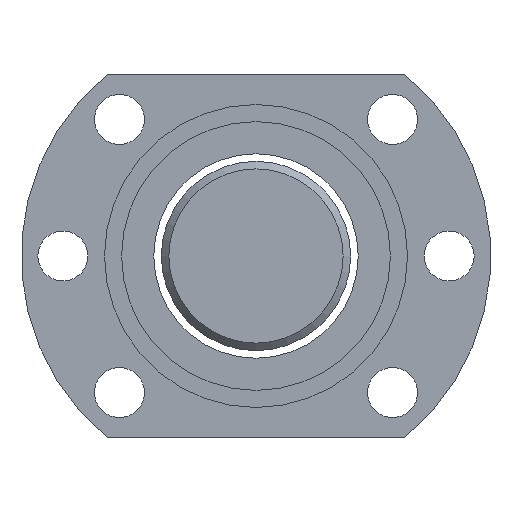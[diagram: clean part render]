
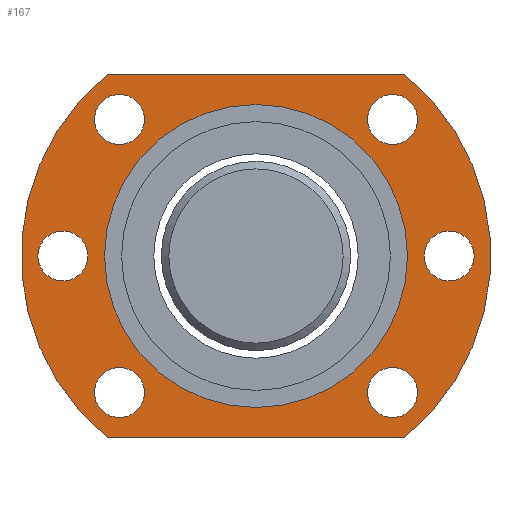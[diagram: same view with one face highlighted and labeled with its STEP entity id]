
A CAD part, left-side view. The second image highlights one B-rep face of the part: STEP entity #167.
In plain terms, the highlighted planar face has unit normal (-1, 0, 0).
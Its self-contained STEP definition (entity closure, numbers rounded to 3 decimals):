
#113=LINE('',#1132,#121);
#114=LINE('',#1136,#122);
#121=VECTOR('',#930,1.);
#122=VECTOR('',#933,1.);
#136=PLANE('',#782);
#167=ADVANCED_FACE('',(#267,#268,#269,#270,#271,#272,#273,#274),#136,.T.);
#267=FACE_BOUND('',#367,.T.);
#268=FACE_BOUND('',#368,.T.);
#269=FACE_BOUND('',#369,.T.);
#270=FACE_BOUND('',#370,.T.);
#271=FACE_BOUND('',#371,.T.);
#272=FACE_BOUND('',#372,.T.);
#273=FACE_BOUND('',#373,.T.);
#274=FACE_BOUND('',#374,.T.);
#367=EDGE_LOOP('',(#476));
#368=EDGE_LOOP('',(#477));
#369=EDGE_LOOP('',(#478,#479,#480,#481));
#370=EDGE_LOOP('',(#482));
#371=EDGE_LOOP('',(#483));
#372=EDGE_LOOP('',(#484));
#373=EDGE_LOOP('',(#485));
#374=EDGE_LOOP('',(#486));
#476=ORIENTED_EDGE('',*,*,#641,.T.);
#477=ORIENTED_EDGE('',*,*,#630,.F.);
#478=ORIENTED_EDGE('',*,*,#642,.T.);
#479=ORIENTED_EDGE('',*,*,#643,.T.);
#480=ORIENTED_EDGE('',*,*,#644,.T.);
#481=ORIENTED_EDGE('',*,*,#645,.T.);
#482=ORIENTED_EDGE('',*,*,#646,.F.);
#483=ORIENTED_EDGE('',*,*,#647,.F.);
#484=ORIENTED_EDGE('',*,*,#648,.F.);
#485=ORIENTED_EDGE('',*,*,#649,.T.);
#486=ORIENTED_EDGE('',*,*,#650,.T.);
#572=VERTEX_POINT('',#1104);
#583=VERTEX_POINT('',#1128);
#584=VERTEX_POINT('',#1130);
#585=VERTEX_POINT('',#1131);
#586=VERTEX_POINT('',#1133);
#587=VERTEX_POINT('',#1135);
#588=VERTEX_POINT('',#1138);
#589=VERTEX_POINT('',#1140);
#590=VERTEX_POINT('',#1142);
#591=VERTEX_POINT('',#1144);
#592=VERTEX_POINT('',#1146);
#630=EDGE_CURVE('',#572,#572,#692,.T.);
#641=EDGE_CURVE('',#583,#583,#701,.T.);
#642=EDGE_CURVE('',#584,#585,#702,.T.);
#643=EDGE_CURVE('',#585,#586,#113,.T.);
#644=EDGE_CURVE('',#586,#587,#703,.T.);
#645=EDGE_CURVE('',#587,#584,#114,.T.);
#646=EDGE_CURVE('',#588,#588,#704,.T.);
#647=EDGE_CURVE('',#589,#589,#705,.T.);
#648=EDGE_CURVE('',#590,#590,#706,.T.);
#649=EDGE_CURVE('',#591,#591,#707,.T.);
#650=EDGE_CURVE('',#592,#592,#708,.T.);
#692=CIRCLE('',#763,20.);
#701=CIRCLE('',#774,3.3);
#702=CIRCLE('',#775,31.);
#703=CIRCLE('',#776,31.);
#704=CIRCLE('',#777,3.3);
#705=CIRCLE('',#778,3.3);
#706=CIRCLE('',#779,3.3);
#707=CIRCLE('',#780,3.3);
#708=CIRCLE('',#781,3.3);
#763=AXIS2_PLACEMENT_3D('',#1103,#902,#903);
#774=AXIS2_PLACEMENT_3D('',#1127,#926,#927);
#775=AXIS2_PLACEMENT_3D('',#1129,#928,#929);
#776=AXIS2_PLACEMENT_3D('',#1134,#931,#932);
#777=AXIS2_PLACEMENT_3D('',#1137,#934,#935);
#778=AXIS2_PLACEMENT_3D('',#1139,#936,#937);
#779=AXIS2_PLACEMENT_3D('',#1141,#938,#939);
#780=AXIS2_PLACEMENT_3D('',#1143,#940,#941);
#781=AXIS2_PLACEMENT_3D('',#1145,#942,#943);
#782=AXIS2_PLACEMENT_3D('',#1147,#944,#945);
#902=DIRECTION('',(-1.,0.,0.));
#903=DIRECTION('',(0.,0.,-1.));
#926=DIRECTION('',(1.,0.,0.));
#927=DIRECTION('',(0.,0.,1.));
#928=DIRECTION('',(-1.,0.,0.));
#929=DIRECTION('',(0.,0.,-1.));
#930=DIRECTION('',(0.,-1.,0.));
#931=DIRECTION('',(-1.,0.,0.));
#932=DIRECTION('',(0.,0.,-1.));
#933=DIRECTION('',(0.,1.,0.));
#934=DIRECTION('',(-1.,0.,0.));
#935=DIRECTION('',(0.,0.,1.));
#936=DIRECTION('',(-1.,0.,0.));
#937=DIRECTION('',(0.,0.,1.));
#938=DIRECTION('',(-1.,0.,0.));
#939=DIRECTION('',(0.,0.,1.));
#940=DIRECTION('',(1.,0.,0.));
#941=DIRECTION('',(0.,0.,1.));
#942=DIRECTION('',(1.,0.,0.));
#943=DIRECTION('',(0.,0.,1.));
#944=DIRECTION('',(-1.,0.,0.));
#945=DIRECTION('',(0.,0.,1.));
#1103=CARTESIAN_POINT('',(-0.225,-37.121,7.749));
#1104=CARTESIAN_POINT('',(-0.225,-37.121,-12.251));
#1127=CARTESIAN_POINT('',(-0.225,-62.621,7.749));
#1128=CARTESIAN_POINT('',(-0.225,-62.621,11.049));
#1129=CARTESIAN_POINT('',(-0.225,-37.121,7.749));
#1130=CARTESIAN_POINT('',(-0.225,-17.499,31.749));
#1131=CARTESIAN_POINT('',(-0.225,-17.499,-16.251));
#1132=CARTESIAN_POINT('',(-0.225,-17.499,-16.251));
#1133=CARTESIAN_POINT('',(-0.225,-56.742,-16.251));
#1134=CARTESIAN_POINT('',(-0.225,-37.121,7.749));
#1135=CARTESIAN_POINT('',(-0.225,-56.742,31.749));
#1136=CARTESIAN_POINT('',(-0.225,-56.742,31.749));
#1137=CARTESIAN_POINT('',(-0.225,-11.621,7.749));
#1138=CARTESIAN_POINT('',(-0.225,-11.621,11.049));
#1139=CARTESIAN_POINT('',(-0.225,-19.089,25.78));
#1140=CARTESIAN_POINT('',(-0.225,-19.089,29.08));
#1141=CARTESIAN_POINT('',(-0.225,-19.089,-10.282));
#1142=CARTESIAN_POINT('',(-0.225,-19.089,-6.982));
#1143=CARTESIAN_POINT('',(-0.225,-55.152,-10.282));
#1144=CARTESIAN_POINT('',(-0.225,-55.152,-6.982));
#1145=CARTESIAN_POINT('',(-0.225,-55.152,25.78));
#1146=CARTESIAN_POINT('',(-0.225,-55.152,29.08));
#1147=CARTESIAN_POINT('',(-0.225,-37.121,7.749));
